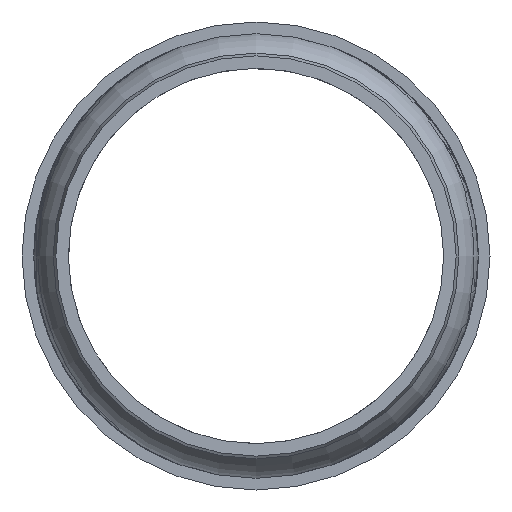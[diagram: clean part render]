
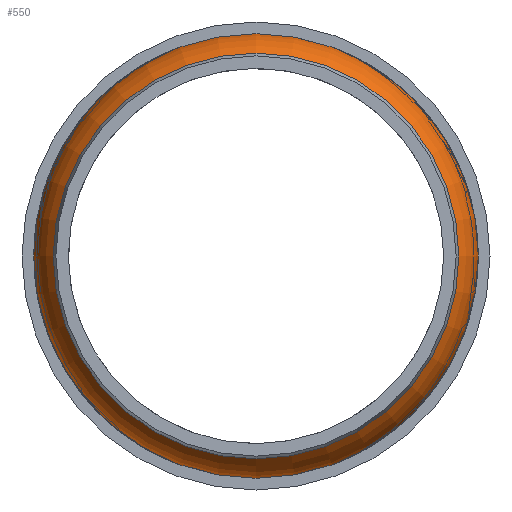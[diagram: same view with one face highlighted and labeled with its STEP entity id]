
A CAD part, left-side view. The second image highlights one B-rep face of the part: STEP entity #550.
In plain terms, the highlighted toroidal (fillet/blend) face has major radius 58.219 mm and minor radius 30 mm.
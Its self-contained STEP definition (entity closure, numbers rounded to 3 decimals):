
#62=TOROIDAL_SURFACE('',#612,58.219,30.);
#111=FACE_BOUND('',#208,.T.);
#147=FACE_OUTER_BOUND('',#207,.T.);
#207=EDGE_LOOP('',(#460,#461));
#208=EDGE_LOOP('',(#462));
#234=CIRCLE('',#591,87.8);
#235=CIRCLE('',#592,87.8);
#241=CIRCLE('',#611,80.125);
#274=VERTEX_POINT('',#1617);
#283=VERTEX_POINT('',#2019);
#294=VERTEX_POINT('',#2284);
#340=EDGE_CURVE('',#283,#274,#234,.T.);
#341=EDGE_CURVE('',#274,#283,#235,.T.);
#353=EDGE_CURVE('',#294,#294,#241,.T.);
#460=ORIENTED_EDGE('',*,*,#340,.F.);
#461=ORIENTED_EDGE('',*,*,#341,.F.);
#462=ORIENTED_EDGE('',*,*,#353,.T.);
#550=ADVANCED_FACE('',(#147,#111),#62,.T.);
#591=AXIS2_PLACEMENT_3D('',#2020,#684,#685);
#592=AXIS2_PLACEMENT_3D('',#2021,#686,#687);
#611=AXIS2_PLACEMENT_3D('',#2285,#724,#725);
#612=AXIS2_PLACEMENT_3D('',#2286,#726,#727);
#684=DIRECTION('center_axis',(1.,0.,0.));
#685=DIRECTION('ref_axis',(0.,0.,
1.));
#686=DIRECTION('center_axis',(1.,0.,0.));
#687=DIRECTION('ref_axis',(0.,0.,
1.));
#724=DIRECTION('center_axis',(1.,0.,0.));
#725=DIRECTION('ref_axis',(0.,0.,
1.));
#726=DIRECTION('center_axis',(1.,0.,0.));
#727=DIRECTION('ref_axis',(0.,0.,1.));
#1617=CARTESIAN_POINT('',(1012.6,87.8,0.));
#2019=CARTESIAN_POINT('',(1012.6,-87.8,0.));
#2020=CARTESIAN_POINT('Origin',(1012.6,0.,
0.));
#2021=CARTESIAN_POINT('Origin',(1012.6,0.,
0.));
#2284=CARTESIAN_POINT('',(997.1,-80.125,0.));
#2285=CARTESIAN_POINT('Origin',(997.1,0.,
0.));
#2286=CARTESIAN_POINT('Origin',(1017.597,0.,
0.));
